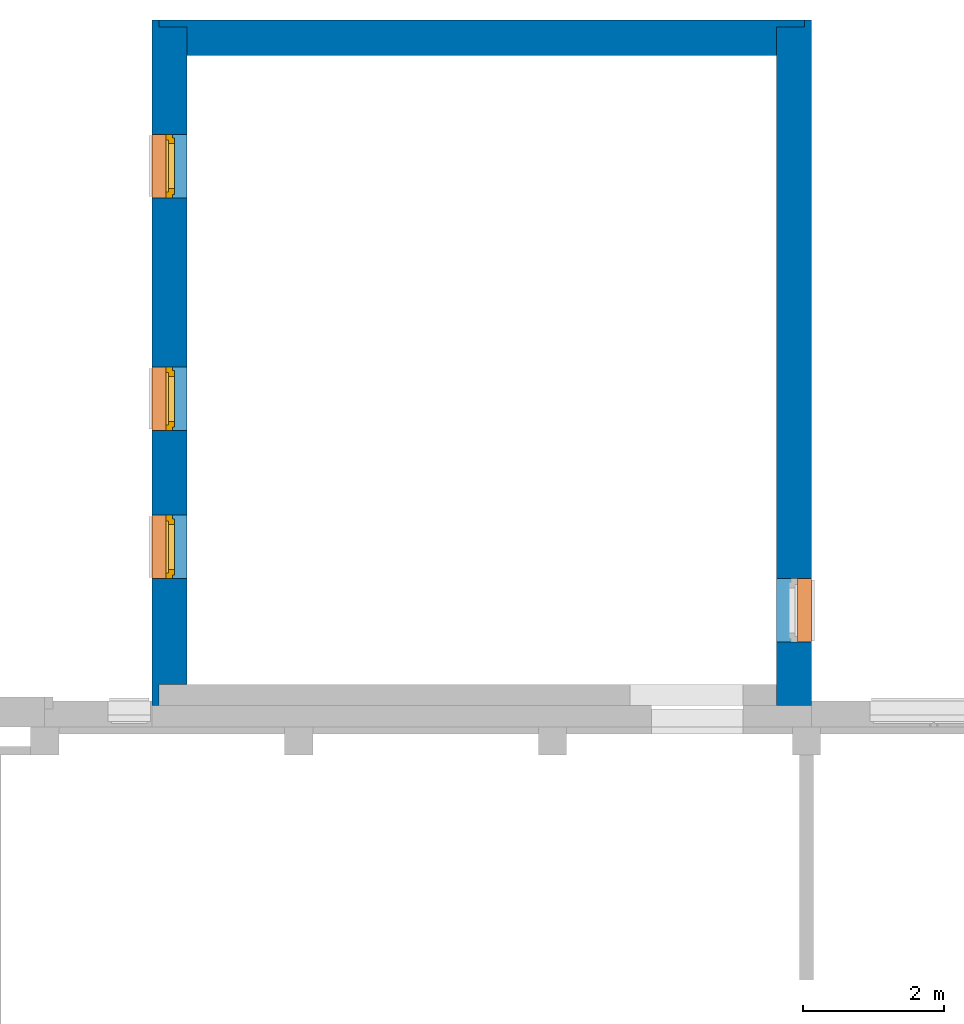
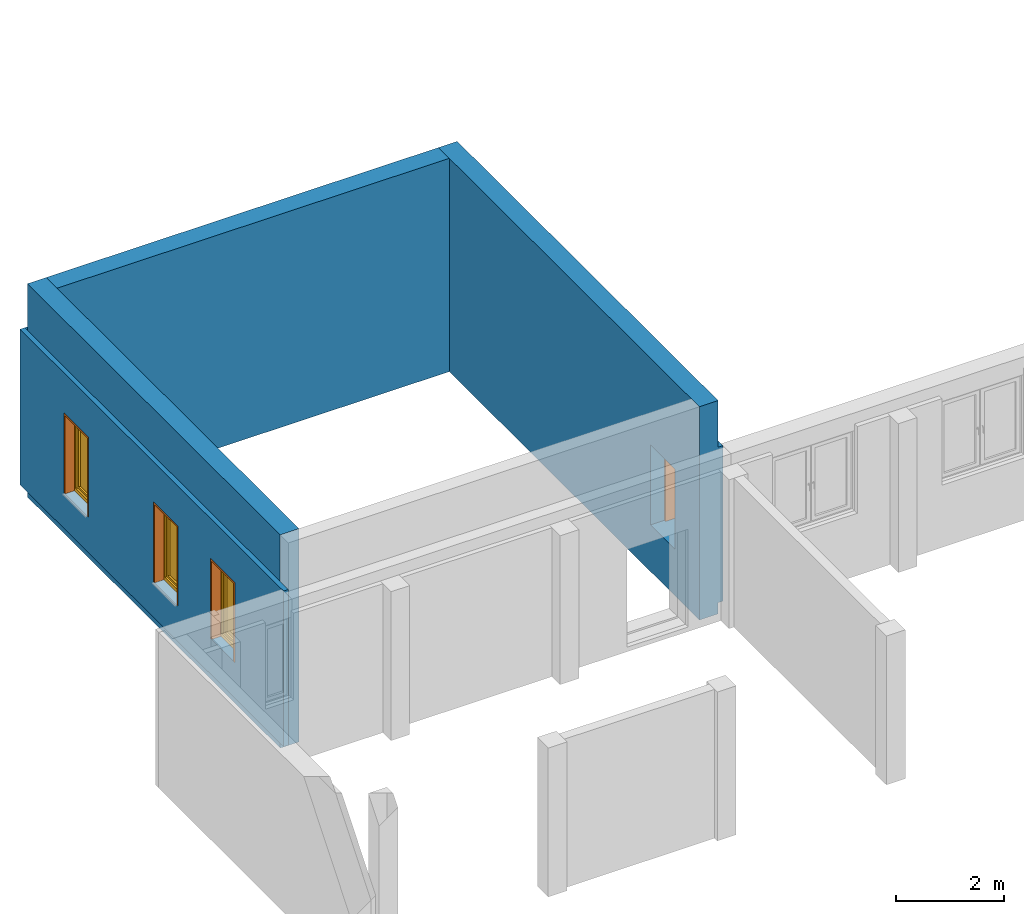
# One storey, part 11 of 37: 4 proxies, 3 walls, 3 windows, 4 openings.
"""IFC4 building model written with IfcOpenShell, lengths in metres."""

from ifc_helpers import new_model, entity, si_unit, converted_unit, derived_unit, frame, origin, origin_with_axes, place, context, subcontext, project, spatial, polyline, outline, extrude, clip, bounded_halfspace, closed_shell, open_shell, faceted_brep, surface_model, source, transform, mapped, material, layer, layer_set, layer_usage, element, fill, save


model = new_model("IFC4")

# Units and contexts
model_context = context("Model", 3, precision=1e-05, world=origin())
body_context = subcontext(model_context, "Body", "Model", "MODEL_VIEW")
ifc_project = project(units=[si_unit("LENGTHUNIT", "METRE"), si_unit("AREAUNIT", "SQUARE_METRE"), si_unit("VOLUMEUNIT", "CUBIC_METRE"), si_unit("MASSUNIT", "GRAM", prefix="KILO"), converted_unit("PLANEANGLEUNIT", "DEGREE", entity("IfcPlaneAngleMeasure", 0.0174532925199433), si_unit("PLANEANGLEUNIT", "RADIAN"), dimensions=[0, 0, 0, 0, 0, 0, 0]), derived_unit("THERMALTRANSMITTANCEUNIT", [(si_unit("POWERUNIT", "WATT"), 1), (si_unit("THERMODYNAMICTEMPERATUREUNIT", "KELVIN"), -1), (si_unit("LENGTHUNIT", "METRE"), -2)]), derived_unit("VOLUMETRICFLOWRATEUNIT", [(si_unit("LENGTHUNIT", "METRE"), 3), (converted_unit("TIMEUNIT", "hour", entity("IfcTimeMeasure", 3600.0), si_unit("TIMEUNIT", "SECOND"), dimensions=[0, 0, 1, 0, 0, 0, 0]), -1), (si_unit("LENGTHUNIT", "METRE"), -1)])], contexts=[model_context])

# Site, building, storey
site_placement = place(None, origin())
site = spatial("IfcSite", under=ifc_project, at=site_placement, Name="3. ASŘ", CompositionType="ELEMENT")
building_placement = place(site_placement, origin())
building = spatial("IfcBuilding", under=site, at=building_placement, Name="Pavilon B", CompositionType="ELEMENT")
storey_placement = place(building_placement, origin())
storey = spatial("IfcBuildingStorey", under=building, at=storey_placement, Name="Půdorys 1.NP", CompositionType="ELEMENT", Elevation=0.0)

# Wall, openings, windows, proxies
ifc_material_1 = material(Name="MINERÁLNÍ VATA")
ifc_layer_1 = layer(ifc_material_1, 0.1)
ifc_material_2 = material(Name="STÁVAJÍC KCE")
ifc_layer_2 = layer(ifc_material_2, 0.4)
ifc_layer_set_1 = layer_set([ifc_layer_1, ifc_layer_2])
ifc_layer_usage_1 = layer_usage(ifc_layer_set_1, "AXIS2", "POSITIVE", -0.1)
wall_1_placement = place(storey_placement, frame((-2.67999999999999, -5.58, -0.25), z_axis=(0.0, 0.0, 1.0), x_axis=(0.0, -1.0, 0.0)))
wall_1 = element("IfcWall", 1, at=wall_1_placement, inside=storey, material=ifc_layer_usage_1, Name="STÁVAJÍCÍ KCE", context=body_context, shape_type="Clipping", body=[
    clip(clip(extrude(outline(polyline([(-9.72, 0.0), (0.0, 0.0), (0.0, 0.1), (-0.299999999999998, 0.1), (-0.299999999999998, 0.5), (-9.62, 0.5), (-9.62, 0.1), (-9.72, 0.1), (-9.72, 0.0)])), frame((9.72, 0.0, 0.0), z_axis=(0.0, 0.0, 1.0), x_axis=(1.0, 0.0, 0.0)), (0.0, 0.0, 1.0), 4.8), bounded_halfspace(frame((4.82666666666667, 0.066666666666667, 0.25), z_axis=(0.0, 0.0, 1.0), x_axis=(-1.0, 0.0, 0.0)), True, origin_with_axes(), polyline([(9.42, 0.1), (0.100000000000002, 0.1), (0.0, 0.1), (0.0, 0.0), (9.72, 0.0), (9.72, 0.1), (9.42, 0.1)]))), bounded_halfspace(frame((4.82666666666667, 0.066666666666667, 3.75), z_axis=(0.0, 0.0, -1.0), x_axis=(1.0, 0.0, 0.0)), True, origin_with_axes(), polyline([(0.0, 0.0), (9.72, 0.0), (9.72, 0.1), (9.42, 0.1), (0.100000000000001, 0.1), (0.0, 0.1), (0.0, 0.0)]))),
])
opening_1_placement = place(wall_1_placement, frame((7.02, 0.0, 1.05), z_axis=(0.0, 1.0, 0.0), x_axis=(0.0, 0.0, 1.0)))
opening_1 = element("IfcOpeningElement", 2, at=opening_1_placement, cuts=wall_1, Name="Okenní otvor", ObjectType="Opening", context=body_context, shape_type="SweptSolid", body=[
    extrude(outline(polyline([(0.0, 0.9), (1.8, 0.9), (1.8, 0.0), (0.0, 0.0), (0.0, 0.9)])), origin_with_axes(), (0.0, 0.0, 1.0), 0.1),
    extrude(outline(polyline([(0.0, 0.9), (1.8, 0.9), (1.8, 0.0), (0.0, 0.0), (0.0, 0.9)])), frame((0.0, 0.0, 0.1), z_axis=(0.0, 0.0, 1.0), x_axis=(1.0, 0.0, 0.0)), (0.0, 0.0, 1.0), 0.4),
])
opening_2_placement = place(wall_1_placement, frame((4.92, 0.0, 1.05), z_axis=(0.0, 1.0, 0.0), x_axis=(0.0, 0.0, 1.0)))
opening_2 = element("IfcOpeningElement", 3, at=opening_2_placement, cuts=wall_1, Name="Okenní otvor", ObjectType="Opening", context=body_context, shape_type="SweptSolid", body=[
    extrude(outline(polyline([(0.0, 0.9), (1.8, 0.9), (1.8, 0.0), (0.0, 0.0), (0.0, 0.9)])), origin_with_axes(), (0.0, 0.0, 1.0), 0.1),
    extrude(outline(polyline([(0.0, 0.9), (1.8, 0.9), (1.8, 0.0), (0.0, 0.0), (0.0, 0.9)])), frame((0.0, 0.0, 0.1), z_axis=(0.0, 0.0, 1.0), x_axis=(1.0, 0.0, 0.0)), (0.0, 0.0, 1.0), 0.4),
])
opening_3_placement = place(wall_1_placement, frame((1.62, 0.0, 1.05), z_axis=(0.0, 1.0, 0.0), x_axis=(0.0, 0.0, 1.0)))
opening_3 = element("IfcOpeningElement", 4, at=opening_3_placement, cuts=wall_1, Name="Okenní otvor", ObjectType="Opening", context=body_context, shape_type="SweptSolid", body=[
    extrude(outline(polyline([(0.0, 0.9), (1.8, 0.9), (1.8, 0.0), (0.0, 0.0), (0.0, 0.9)])), origin_with_axes(), (0.0, 0.0, 1.0), 0.1),
    extrude(outline(polyline([(0.0, 0.9), (1.8, 0.9), (1.8, 0.0), (0.0, 0.0), (0.0, 0.9)])), frame((0.0, 0.0, 0.1), z_axis=(0.0, 0.0, 1.0), x_axis=(1.0, 0.0, 0.0)), (0.0, 0.0, 1.0), 0.4),
])
shared_shape = source(origin_with_axes(), body_context, "Body", "SurfaceModel", [
    surface_model("IfcShellBasedSurfaceModel", [(0.0, 0.122, 1.8), (0.0, 0.122, -5.63337527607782e-18), (0.08, 0.122, -5.63337527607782e-18), (0.08, 0.122, 1.8), (0.0, 0.03, 5.63337527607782e-18), (0.0, 0.0300000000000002, 1.8), (0.08, 0.0300000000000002, 1.8), (0.08, 0.03, 5.63337527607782e-18)], [closed_shell([[[0, 1, 2, 3]], [[4, 5, 6, 7]], [[1, 0, 5, 4]], [[2, 1, 4, 7]], [[3, 2, 7, 6]], [[0, 3, 6, 5]]], orient=[[False], [False], [False], [False], [False], [False]])]),
    surface_model("IfcShellBasedSurfaceModel", [(0.82, 0.122, 1.8), (0.82, 0.122, -5.63337527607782e-18), (0.9, 0.122, -5.63337527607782e-18), (0.9, 0.122, 1.8), (0.82, 0.03, 5.63337527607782e-18), (0.82, 0.0300000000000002, 1.8), (0.9, 0.0300000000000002, 1.8), (0.9, 0.03, 5.63337527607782e-18)], [closed_shell([[[0, 1, 2, 3]], [[4, 5, 6, 7]], [[1, 0, 5, 4]], [[2, 1, 4, 7]], [[3, 2, 7, 6]], [[0, 3, 6, 5]]], orient=[[False], [False], [False], [False], [False], [False]])]),
    surface_model("IfcShellBasedSurfaceModel", [(0.08, 0.122, 0.08), (0.08, 0.122, -5.63337527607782e-18), (0.82, 0.122, -5.63337527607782e-18), (0.82, 0.122, 0.08), (0.08, 0.03, 5.63337527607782e-18), (0.08, 0.03, 0.08), (0.82, 0.03, 0.08), (0.82, 0.03, 5.63337527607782e-18)], [closed_shell([[[0, 1, 2, 3]], [[4, 5, 6, 7]], [[1, 0, 5, 4]], [[2, 1, 4, 7]], [[3, 2, 7, 6]], [[0, 3, 6, 5]]], orient=[[False], [False], [False], [False], [False], [False]])]),
    surface_model("IfcShellBasedSurfaceModel", [(0.08, 0.122, 1.8), (0.08, 0.122, 1.72), (0.82, 0.122, 1.72), (0.82, 0.122, 1.8), (0.08, 0.0300000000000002, 1.72), (0.08, 0.0300000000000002, 1.8), (0.82, 0.0300000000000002, 1.8), (0.82, 0.0300000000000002, 1.72)], [closed_shell([[[0, 1, 2, 3]], [[4, 5, 6, 7]], [[1, 0, 5, 4]], [[2, 1, 4, 7]], [[3, 2, 7, 6]], [[0, 3, 6, 5]]], orient=[[False], [False], [False], [False], [False], [False]])]),
    surface_model("IfcShellBasedSurfaceModel", [(0.05, 0.0850000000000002, 1.75), (0.05, 0.085, 0.05), (0.13, 0.085, 0.05), (0.13, 0.0850000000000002, 1.75), (0.05, 3.5527136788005e-18, 0.05), (0.05, 2.16715534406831e-16, 1.75), (0.13, 2.16715534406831e-16, 1.75), (0.13, 3.5527136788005e-18, 0.05)], [closed_shell([[[0, 1, 2, 3]], [[4, 5, 6, 7]], [[1, 0, 5, 4]], [[2, 1, 4, 7]], [[3, 2, 7, 6]], [[0, 3, 6, 5]]], orient=[[False], [False], [False], [False], [False], [False]])]),
    surface_model("IfcShellBasedSurfaceModel", [(0.77, 0.0850000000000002, 1.75), (0.77, 0.085, 0.05), (0.85, 0.085, 0.05), (0.85, 0.0850000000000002, 1.75), (0.77, 3.5527136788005e-18, 0.05), (0.77, 2.16715534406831e-16, 1.75), (0.85, 2.16715534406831e-16, 1.75), (0.85, 3.5527136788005e-18, 0.05)], [closed_shell([[[0, 1, 2, 3]], [[4, 5, 6, 7]], [[1, 0, 5, 4]], [[2, 1, 4, 7]], [[3, 2, 7, 6]], [[0, 3, 6, 5]]], orient=[[False], [False], [False], [False], [False], [False]])]),
    surface_model("IfcShellBasedSurfaceModel", [(0.13, 0.085, 0.13), (0.13, 0.085, 0.05), (0.77, 0.085, 0.05), (0.77, 0.085, 0.13), (0.13, 3.5527136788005e-18, 0.05), (0.13, 1.77635683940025e-17, 0.13), (0.77, 1.77635683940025e-17, 0.13), (0.77, 3.5527136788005e-18, 0.05)], [closed_shell([[[0, 1, 2, 3]], [[4, 5, 6, 7]], [[1, 0, 5, 4]], [[2, 1, 4, 7]], [[3, 2, 7, 6]], [[0, 3, 6, 5]]], orient=[[False], [False], [False], [False], [False], [False]])]),
    surface_model("IfcShellBasedSurfaceModel", [(0.13, 0.0850000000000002, 1.75), (0.13, 0.0850000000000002, 1.67), (0.77, 0.0850000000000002, 1.67), (0.77, 0.0850000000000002, 1.75), (0.13, 2.02504679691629e-16, 1.67), (0.13, 2.16715534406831e-16, 1.75), (0.77, 2.16715534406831e-16, 1.75), (0.77, 2.02504679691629e-16, 1.67)], [closed_shell([[[0, 1, 2, 3]], [[4, 5, 6, 7]], [[1, 0, 5, 4]], [[2, 1, 4, 7]], [[3, 2, 7, 6]], [[0, 3, 6, 5]]], orient=[[False], [False], [False], [False], [False], [False]])]),
    surface_model("IfcShellBasedSurfaceModel", [(0.13, 0.0425, 0.13), (0.77, 0.0425, 0.13), (0.77, 0.0425000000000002, 1.67), (0.13, 0.0425000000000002, 1.67)], [open_shell([[[0, 1, 2, 3]]], orient=[[False]])]),
])
window_1_placement = place(opening_1_placement, frame((0.0, 0.899999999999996, 0.322000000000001), z_axis=(1.0, 0.0, 0.0), x_axis=(0.0, -1.0, 1.22464679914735e-16)))
window_1 = element("IfcWindow", 5, at=window_1_placement, inside=storey, Name="O06", OverallHeight=1.8, OverallWidth=0.9, PartitioningType="USERDEFINED", PredefinedType="WINDOW", context=body_context, shape_type="MappedRepresentation", body=[
    mapped(shared_shape, transform((0.0, 0.0, 0.0), x_axis=(1.0, 0.0, 0.0), y_axis=(0.0, 1.0, 0.0), z_axis=(0.0, 0.0, 1.0), scale=1.0)),
])
fill(opening_1, window_1)
window_2_placement = place(opening_2_placement, frame((0.0, 0.899999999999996, 0.322000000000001), z_axis=(1.0, 0.0, 0.0), x_axis=(0.0, -1.0, 1.22464679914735e-16)))
window_2 = element("IfcWindow", 6, at=window_2_placement, inside=storey, Name="O06", OverallHeight=1.8, OverallWidth=0.9, PartitioningType="USERDEFINED", PredefinedType="WINDOW", context=body_context, shape_type="MappedRepresentation", body=[
    mapped(shared_shape, transform((0.0, 0.0, 0.0), x_axis=(1.0, 0.0, 0.0), y_axis=(0.0, 1.0, 0.0), z_axis=(0.0, 0.0, 1.0), scale=1.0)),
])
fill(opening_2, window_2)
window_3_placement = place(opening_3_placement, frame((0.0, 0.899999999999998, 0.322000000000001), z_axis=(1.0, 0.0, 0.0), x_axis=(0.0, -1.0, 1.22464679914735e-16)))
window_3 = element("IfcWindow", 7, at=window_3_placement, inside=storey, Name="O06", OverallHeight=1.8, OverallWidth=0.9, PartitioningType="USERDEFINED", PredefinedType="WINDOW", context=body_context, shape_type="MappedRepresentation", body=[
    mapped(shared_shape, transform((0.0, 0.0, 0.0), x_axis=(1.0, 0.0, 0.0), y_axis=(0.0, 1.0, 0.0), z_axis=(0.0, 0.0, 1.0), scale=1.0)),
])
fill(opening_3, window_3)
ifc_material_3 = material(Name="MINERÁLNÍ VATA")
proxy_1_placement = place(opening_1_placement, frame((0.0, 0.9, 0.0)))
proxy_1 = element("IfcBuildingElementProxy", 8, at=proxy_1_placement, inside=storey, material=ifc_material_3, context=body_context, shape_type="Brep", body=[
    faceted_brep([(0.0, -0.9, 0.0), (0.0, -0.9, 0.2), (1.8, -0.9, 0.2), (1.8, -0.9, 0.0), (0.0, -0.86, 0.2), (0.0, -0.86, 0.0), (1.76, -0.86, 0.0), (1.76, -0.86, 0.2), (1.8, 0.0, 0.2), (1.8, 0.0, 0.0), (0.0, 0.0, 0.0), (0.0, -0.0399999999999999, 0.0), (1.76, -0.04, 0.0), (1.76, -0.04, 0.2), (0.0, -0.0399999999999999, 0.2), (0.0, 0.0, 0.2)], [[[0, 1, 2, 3]], [[4, 5, 6, 7]], [[0, 5, 4, 1]], [[3, 2, 8, 9]], [[6, 5, 0, 3, 9, 10, 11, 12]], [[13, 14, 15, 8, 2, 1, 4, 7]], [[7, 6, 12, 13]], [[11, 14, 13, 12]], [[15, 10, 9, 8]], [[11, 10, 15, 14]]], orient=[[False], [False], [False], [False], [False], [False], [False], [False], [False], [False]]),
])
fill(opening_1, proxy_1)
ifc_material_4 = material(Name="MINERÁLNÍ VATA")
proxy_2_placement = place(opening_2_placement, frame((0.0, 0.9, 0.0)))
proxy_2 = element("IfcBuildingElementProxy", 9, at=proxy_2_placement, inside=storey, material=ifc_material_4, context=body_context, shape_type="Brep", body=[
    faceted_brep([(0.0, 0.0, 0.2), (0.0, 0.0, 0.0), (1.8, 0.0, 0.0), (1.8, 0.0, 0.2), (1.8, -0.9, 0.0), (1.8, -0.9, 0.2), (0.0, -0.0399999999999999, 0.0), (0.0, -0.0399999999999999, 0.2), (0.0, -0.9, 0.2), (0.0, -0.86, 0.2), (1.76, -0.86, 0.2), (1.76, -0.0399999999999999, 0.2), (1.76, -0.0399999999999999, 0.0), (1.76, -0.86, 0.0), (0.0, -0.86, 0.0), (0.0, -0.9, 0.0)], [[[0, 1, 2, 3]], [[2, 4, 5, 3]], [[6, 1, 0, 7]], [[7, 0, 3, 5, 8, 9, 10, 11]], [[1, 6, 12, 13, 14, 15, 4, 2]], [[6, 7, 11, 12]], [[15, 8, 5, 4]], [[15, 14, 9, 8]], [[9, 14, 13, 10]], [[10, 13, 12, 11]]], orient=[[False], [False], [False], [False], [False], [False], [False], [False], [False], [False]]),
])
fill(opening_2, proxy_2)
ifc_material_5 = material(Name="MINERÁLNÍ VATA")
proxy_3_placement = place(opening_3_placement, frame((0.0, 0.9, 0.0)))
proxy_3 = element("IfcBuildingElementProxy", 10, at=proxy_3_placement, inside=storey, material=ifc_material_5, context=body_context, shape_type="Brep", body=[
    faceted_brep([(0.0, -0.9, 0.0), (0.0, -0.9, 0.2), (1.8, -0.9, 0.2), (1.8, -0.9, 0.0), (0.0, -0.86, 0.2), (0.0, -0.86, 0.0), (1.76, -0.86, 0.0), (1.76, -0.86, 0.2), (1.8, 0.0, 0.2), (1.8, 0.0, 0.0), (0.0, 0.0, 0.0), (0.0, -0.0399999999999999, 0.0), (1.76, -0.04, 0.0), (1.76, -0.04, 0.2), (0.0, -0.0399999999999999, 0.2), (0.0, 0.0, 0.2)], [[[0, 1, 2, 3]], [[4, 5, 6, 7]], [[0, 5, 4, 1]], [[3, 2, 8, 9]], [[6, 5, 0, 3, 9, 10, 11, 12]], [[13, 14, 15, 8, 2, 1, 4, 7]], [[7, 6, 12, 13]], [[11, 14, 13, 12]], [[15, 10, 9, 8]], [[11, 10, 15, 14]]], orient=[[False], [False], [False], [False], [False], [False], [False], [False], [False], [False]]),
])
fill(opening_3, proxy_3)

# Wall
ifc_material_6 = material(Name="MINERÁLNÍ VATA")
ifc_layer_3 = layer(ifc_material_6, 0.1)
ifc_material_7 = material(Name="STÁVAJÍC KCE")
ifc_layer_4 = layer(ifc_material_7, 0.400000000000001)
ifc_layer_set_2 = layer_set([ifc_layer_3, ifc_layer_4])
ifc_layer_usage_2 = layer_usage(ifc_layer_set_2, "AXIS2", "POSITIVE", -0.1)
wall_2_placement = place(storey_placement, frame((6.57000000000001, -5.58, -0.25), z_axis=(0.0, 0.0, 1.0), x_axis=(-1.0, 9.93983280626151e-17, 0.0)))
element("IfcWall", 11, at=wall_2_placement, inside=storey, material=ifc_layer_usage_2, Name="STÁVAJÍCÍ KCE", context=body_context, shape_type="Clipping", body=[
    clip(clip(extrude(outline(polyline([(-9.15, -0.500000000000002), (4.96991640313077e-17, -0.500000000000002), (3.97593312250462e-17, -0.400000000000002), (-0.4, -0.400000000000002), (-0.4, -9.49254032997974e-16), (-8.75, -8.69735370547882e-16), (-8.75, -0.400000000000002), (-9.15, -0.400000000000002), (-9.15, -0.500000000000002)])), frame((9.15, 0.500000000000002, 0.0), z_axis=(0.0, 0.0, 1.0), x_axis=(1.0, 0.0, 0.0)), (0.0, 0.0, 1.0), 4.8), bounded_halfspace(frame((4.575, 0.0666666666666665, 0.25), z_axis=(0.0, 0.0, 1.0), x_axis=(-1.0, 9.52319310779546e-18, 0.0)), True, origin_with_axes(), polyline([(8.75, 0.100000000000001), (0.4, 0.100000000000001), (-9.9398328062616e-18, 0.100000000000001), (-9.04022527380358e-32, 9.09494701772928e-16), (9.15, 9.09494701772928e-16), (9.15, 0.100000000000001), (8.75, 0.100000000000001)]))), bounded_halfspace(frame((4.575, 0.0666666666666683, 3.75), z_axis=(0.0, 0.0, -1.0), x_axis=(1.0, 0.0, 0.0)), True, origin_with_axes(), polyline([(-9.04022527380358e-32, 9.09494701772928e-16), (9.15, 9.09494701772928e-16), (9.15, 0.100000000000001), (8.75, 0.100000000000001), (0.4, 0.100000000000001), (-9.9398328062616e-18, 0.100000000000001), (-9.04022527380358e-32, 9.09494701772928e-16)]))),
])

# Wall, opening, proxy
ifc_material_8 = material(Name="MINERÁLNÍ VATA")
ifc_layer_5 = layer(ifc_material_8, 0.1)
ifc_material_9 = material(Name="STÁVAJÍC KCE")
ifc_layer_6 = layer(ifc_material_9, 0.4)
ifc_layer_set_3 = layer_set([ifc_layer_5, ifc_layer_6])
ifc_layer_usage_3 = layer_usage(ifc_layer_set_3, "AXIS2", "POSITIVE", -0.1)
wall_3_placement = place(storey_placement, frame((6.67000000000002, -15.3, -0.25), z_axis=(0.0, 0.0, 1.0), x_axis=(0.0, 1.0, 0.0)))
wall_3 = element("IfcWall", 12, at=wall_3_placement, inside=storey, material=ifc_layer_usage_3, Name="STÁVAJÍCÍ KCE", context=body_context, shape_type="Clipping", body=[
    clip(clip(extrude(outline(polyline([(0.0, -0.5), (9.72, -0.5), (9.72, -0.4), (9.62, -0.4), (9.62, 0.0), (0.0, 0.0), (0.0, -0.5)])), frame((0.0, 0.5, 0.0), z_axis=(0.0, 0.0, 1.0), x_axis=(1.0, 0.0, 0.0)), (0.0, 0.0, 1.0), 4.8), bounded_halfspace(frame((5.812, 0.06, 0.25), z_axis=(0.0, 0.0, 1.0), x_axis=(-1.0, 0.0, 0.0)), True, origin_with_axes(), polyline([(9.62, 0.1), (0.0, 0.1), (0.0, 0.0), (9.72, 0.0), (9.72, 0.1), (9.62, 0.1)]))), bounded_halfspace(frame((5.812, 0.06, 3.75), z_axis=(0.0, 0.0, -1.0), x_axis=(1.0, 0.0, 0.0)), True, origin_with_axes(), polyline([(0.0, 0.0), (9.72, 0.0), (9.72, 0.1), (9.62, 0.1), (0.0, 0.1), (0.0, 0.0)]))),
])
opening_4_placement = place(wall_3_placement, frame((0.9, 0.0, 1.05), z_axis=(0.0, 1.0, 0.0), x_axis=(0.0, 0.0, 1.0)))
opening_4 = element("IfcOpeningElement", 13, at=opening_4_placement, cuts=wall_3, Name="Okenní otvor", ObjectType="Opening", context=body_context, shape_type="SweptSolid", body=[
    extrude(outline(polyline([(0.0, 0.9), (1.8, 0.9), (1.8, 0.0), (0.0, 0.0), (0.0, 0.9)])), origin_with_axes(), (0.0, 0.0, 1.0), 0.1),
    extrude(outline(polyline([(0.0, 0.9), (1.8, 0.9), (1.8, 0.0), (0.0, 0.0), (0.0, 0.9)])), frame((0.0, 0.0, 0.1), z_axis=(0.0, 0.0, 1.0), x_axis=(1.0, 0.0, 0.0)), (0.0, 0.0, 1.0), 0.4),
])
ifc_material_10 = material(Name="MINERÁLNÍ VATA")
proxy_4_placement = place(opening_4_placement, frame((0.0, 0.0, 0.2)))
proxy_4 = element("IfcBuildingElementProxy", 14, at=proxy_4_placement, inside=storey, material=ifc_material_10, context=body_context, shape_type="Brep", body=[
    faceted_brep([(0.0, 0.0, -0.2), (0.0, 0.0, 0.0), (1.8, 0.0, 0.0), (1.8, 0.0, -0.2), (0.0, 0.0399999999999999, 0.0), (0.0, 0.0399999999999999, -0.2), (1.76, 0.04, -0.2), (1.76, 0.04, 0.0), (1.8, 0.9, 0.0), (1.8, 0.9, -0.2), (0.0, 0.9, -0.2), (0.0, 0.86, -0.2), (1.76, 0.86, -0.2), (1.76, 0.86, 0.0), (0.0, 0.86, 0.0), (0.0, 0.9, 0.0)], [[[0, 1, 2, 3]], [[4, 5, 6, 7]], [[0, 5, 4, 1]], [[3, 2, 8, 9]], [[6, 5, 0, 3, 9, 10, 11, 12]], [[13, 14, 15, 8, 2, 1, 4, 7]], [[7, 6, 12, 13]], [[11, 14, 13, 12]], [[15, 10, 9, 8]], [[11, 10, 15, 14]]], orient=[[False], [False], [False], [False], [False], [False], [False], [False], [False], [False]]),
])
fill(opening_4, proxy_4)

save(model, "model.ifc")
